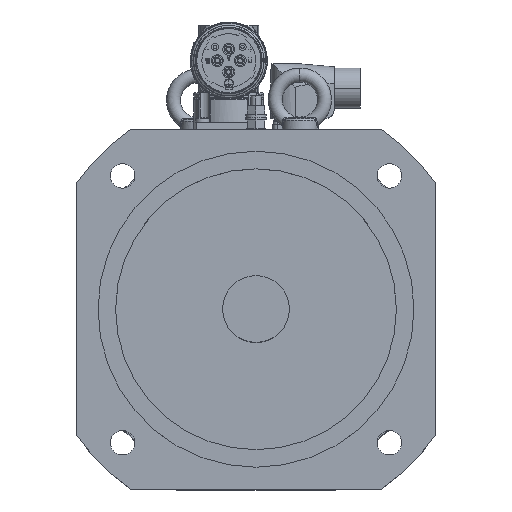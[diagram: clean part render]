
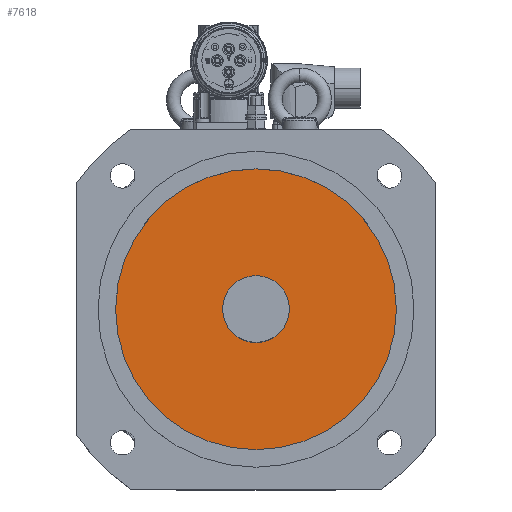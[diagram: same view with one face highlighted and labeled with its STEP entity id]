
A CAD part, top view. The second image highlights one B-rep face of the part: STEP entity #7618.
In plain terms, the highlighted planar face has unit normal (0, 0, 1).
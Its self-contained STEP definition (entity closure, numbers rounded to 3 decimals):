
#4248 = DIRECTION ( 'NONE',  ( 1., 0., 0. ) ) ;
#4249 = DIRECTION ( 'NONE',  ( 0., 0., 1. ) ) ;
#4250 = PLANE ( 'NONE',  #25238 ) ;
#4251 = CARTESIAN_POINT ( 'NONE',  ( 0., 0., 52. ) ) ;
#4606 = AXIS2_PLACEMENT_3D ( 'NONE', #30947, #30946, #30945 ) ;
#4607 = AXIS2_PLACEMENT_3D ( 'NONE', #30959, #30949, #30948 ) ;
#5116 = ORIENTED_EDGE ( 'NONE', *, *, #31895, .F. ) ;
#5117 = ORIENTED_EDGE ( 'NONE', *, *, #7969, .F. ) ;
#5118 = ORIENTED_EDGE ( 'NONE', *, *, #31883, .T. ) ;
#5119 = ORIENTED_EDGE ( 'NONE', *, *, #7968, .T. ) ;
#7618 = ADVANCED_FACE ( 'NONE', ( #15630, #15644 ), #4250, .T. ) ;
#7968 = EDGE_CURVE ( 'NONE', #29540, #29537, #21525, .T. ) ;
#7969 = EDGE_CURVE ( 'NONE', #29777, #29770, #21523, .T. ) ;
#10192 = DIRECTION ( 'NONE',  ( 1., 0., 0. ) ) ;
#10193 = DIRECTION ( 'NONE',  ( 0., 0., 1. ) ) ;
#10219 = CARTESIAN_POINT ( 'NONE',  ( 0., 0., 52. ) ) ;
#10232 = DIRECTION ( 'NONE',  ( 1., 0., 0. ) ) ;
#10233 = DIRECTION ( 'NONE',  ( 0., 0., 1. ) ) ;
#10248 = CARTESIAN_POINT ( 'NONE',  ( 0., 0., 52. ) ) ;
#10342 = CARTESIAN_POINT ( 'NONE',  ( -19., 0., 52. ) ) ;
#10349 = CARTESIAN_POINT ( 'NONE',  ( 19., 0., 52. ) ) ;
#10628 = CARTESIAN_POINT ( 'NONE',  ( 80., 0., 52. ) ) ;
#10631 = CARTESIAN_POINT ( 'NONE',  ( -80., 0., 52. ) ) ;
#11916 = EDGE_LOOP ( 'NONE', ( #5119, #5118 ) ) ;
#11920 = EDGE_LOOP ( 'NONE', ( #5117, #5116 ) ) ;
#12038 = CIRCLE ( 'NONE', #19503, 80. ) ;
#12049 = CIRCLE ( 'NONE', #19507, 19. ) ;
#15630 = FACE_OUTER_BOUND ( 'NONE', #11916, .T. ) ;
#15644 = FACE_BOUND ( 'NONE', #11920, .T. ) ;
#19503 = AXIS2_PLACEMENT_3D ( 'NONE', #10248, #10233, #10232 ) ;
#19507 = AXIS2_PLACEMENT_3D ( 'NONE', #10219, #10193, #10192 ) ;
#21523 = CIRCLE ( 'NONE', #4606, 19. ) ;
#21525 = CIRCLE ( 'NONE', #4607, 80. ) ;
#25238 = AXIS2_PLACEMENT_3D ( 'NONE', #4251, #4249, #4248 ) ;
#29537 = VERTEX_POINT ( 'NONE', #10631 ) ;
#29540 = VERTEX_POINT ( 'NONE', #10628 ) ;
#29770 = VERTEX_POINT ( 'NONE', #10349 ) ;
#29777 = VERTEX_POINT ( 'NONE', #10342 ) ;
#30945 = DIRECTION ( 'NONE',  ( 1., 0., 0. ) ) ;
#30946 = DIRECTION ( 'NONE',  ( 0., 0., 1. ) ) ;
#30947 = CARTESIAN_POINT ( 'NONE',  ( 0., 0., 52. ) ) ;
#30948 = DIRECTION ( 'NONE',  ( 1., 0., 0. ) ) ;
#30949 = DIRECTION ( 'NONE',  ( 0., 0., 1. ) ) ;
#30959 = CARTESIAN_POINT ( 'NONE',  ( 0., 0., 52. ) ) ;
#31883 = EDGE_CURVE ( 'NONE', #29537, #29540, #12038, .T. ) ;
#31895 = EDGE_CURVE ( 'NONE', #29770, #29777, #12049, .T. ) ;
